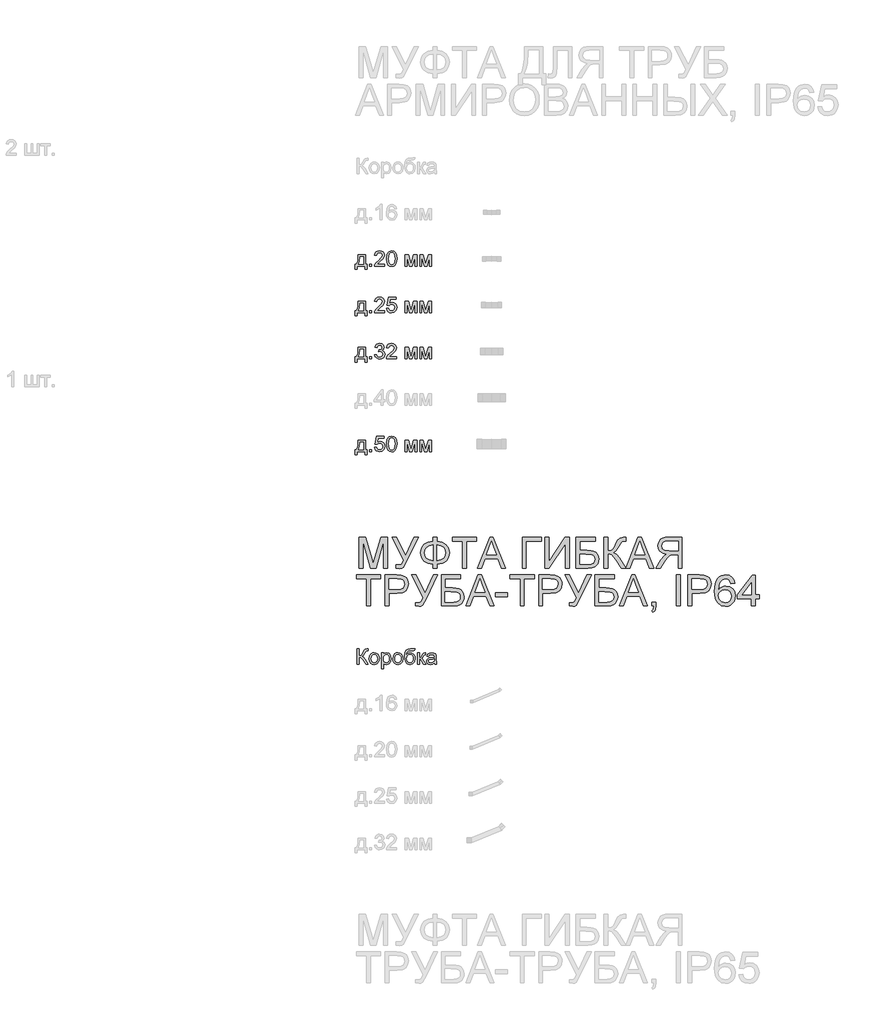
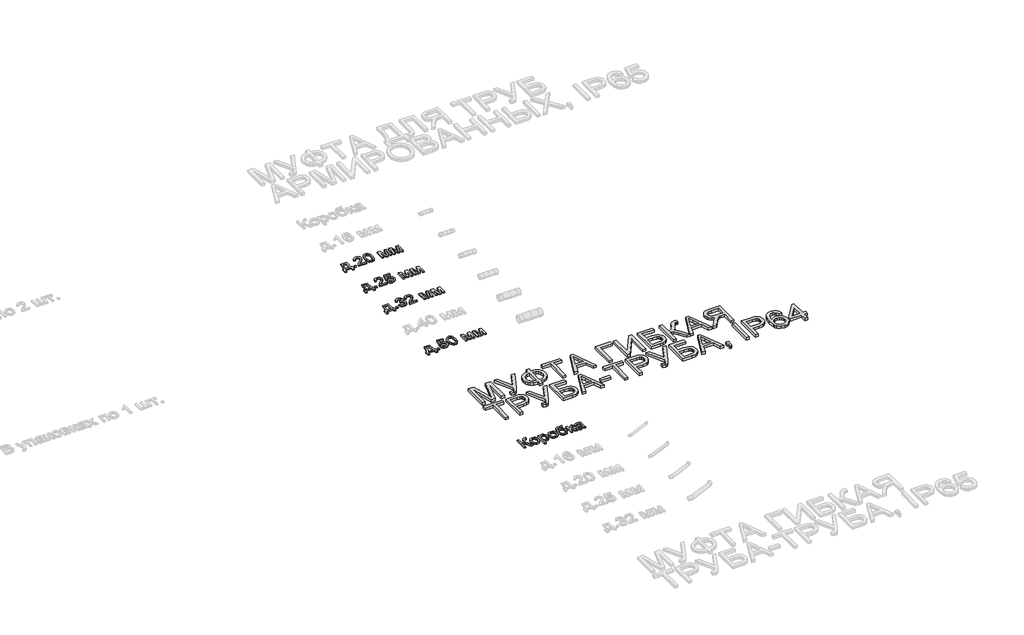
# One storey, part 78 of 98: 6 proxies.
"""IFC4 building model written with IfcOpenShell, lengths in millimetres."""

from ifc_helpers import new_model, si_unit, origin, origin_with_axes, place, context, project, spatial, polyline, outline, extrude, element, save

model = new_model("IFC4")

# Units and contexts
model_context = context("Model", 3, world=origin())
ifc_project = project(units=[si_unit("LENGTHUNIT", "METRE", prefix="MILLI")], contexts=[model_context])

# Site, building, storey
site = spatial("IfcSite", under=ifc_project)
building = spatial("IfcBuilding", under=site)
storey = spatial("IfcBuildingStorey", under=building, Name="Этаж 01", Elevation=0.0)

# Proxies
placement = place(None, origin())
element("IfcBuildingElementProxy", 1, Name="100", ObjectType="100", at=placement, inside=storey, context=model_context, shape_type="SweptSolid", body=[
    extrude(outline(polyline([(14428.905254, -15985.7395637), (14475.9941494, -15985.7395637), (14475.9941494, -16046.9551277), (14485.4119285, -16046.9551277), (14485.4119285, -16079.9173545), (14472.8548897, -16079.9173545), (14472.8548897, -16059.5121665), (14421.0571048, -16059.5121665), (14421.0571048, -16079.9173545), (14408.500066, -16079.9173545), (14408.500066, -16046.9551277), (14416.3482152, -16046.9551277), (14426.0480372, -16023.0060098), (14428.905254, -15985.7395637)]), holes=[polyline([(14439.8926629, -15998.2966025), (14436.949607, -16026.905559), (14430.4748839, -16046.9551277), (14463.4371106, -16046.9551277), (14463.4371106, -15998.2966025), (14439.8926629, -15998.2966025)])]), origin_with_axes(), (0.0, 0.0, 1.0), 10.0),
    extrude(outline(polyline([(14502.6778568, -16059.5121665), (14502.6778568, -16046.9551277), (14515.2348955, -16046.9551277), (14515.2348955, -16059.5121665), (14502.6778568, -16059.5121665)])), origin_with_axes(), (0.0, 0.0, 1.0), 10.0),
    extrude(outline(polyline([(14599.9949072, -16046.9551277), (14599.9949072, -16059.5121665), (14534.0704537, -16059.5121665), (14535.4193544, -16050.8546768), (14543.0467744, -16037.5250859), (14558.7675983, -16022.9692216), (14580.4481106, -16002.0489988), (14585.8682386, -15987.8242283), (14580.7546789, -15976.3095219), (14567.4005625, -15971.6128951), (14553.4823603, -15976.1991573), (14548.1971223, -15988.8788234), (14535.6400835, -15987.3091935), (14538.6843071, -15975.1629563), (14545.2663291, -15966.2908689), (14555.0427931, -15960.8646095), (14567.6703426, -15959.0558563), (14580.3898626, -15961.0669445), (14590.1479325, -15967.1002093), (14596.3559412, -15976.1133182), (14598.4252774, -15987.0639389), (14596.19346, -15998.9710528), (14588.7745064, -16011.2828369), (14570.7850768, -16028.4874515), (14556.3395771, -16040.5662437), (14550.6741944, -16046.9551277), (14599.9949072, -16046.9551277)])), origin_with_axes(), (0.0, 0.0, 1.0), 10.0),
    extrude(outline(polyline([(14612.551946, -16010.0933518), (14616.2430287, -15981.1900897), (14627.2059121, -15964.5250353), (14645.5141728, -15959.0558563), (14660.1804016, -15962.2932179), (14670.3094192, -15971.6251578), (14676.1955312, -15986.4875904), (14678.4763995, -16010.0933518), (14674.8221051, -16038.8739865), (14663.8960098, -16055.5758291), (14655.6646502, -16059.7053045), (14645.5141728, -16061.0817963), (14632.4666247, -16058.6905633), (14622.5583363, -16051.5168644), (14615.0535436, -16034.5268476), (14612.551946, -16010.0933518)]), holes=[polyline([(14625.1089848, -16010.0688263), (14626.5805128, -16029.8210238), (14630.9950967, -16041.2529568), (14637.5679217, -16046.7068073), (14645.5141728, -16048.5247575), (14653.4604239, -16046.700676), (14660.0332488, -16041.2284313), (14664.4478328, -16029.7903669), (14665.9193608, -16010.0688263), (14664.4968837, -15990.7611529), (14660.2294526, -15979.2403151), (14653.6688903, -15973.5197501), (14645.36702, -15971.6128951), (14637.506608, -15973.2928895), (14631.1913004, -15978.3328729), (14626.6295637, -15990.5710806), (14625.1089848, -16010.0688263)])]), origin_with_axes(), (0.0, 0.0, 1.0), 10.0),
    extrude(outline(polyline([(14731.8438143, -15985.7395637), (14753.4507502, -15985.7395637), (14770.1035418, -16044.7968867), (14788.0561832, -15985.7395637), (14808.7556768, -15985.7395637), (14808.7556768, -16059.5121665), (14796.198638, -16059.5121665), (14796.198638, -16000.111487), (14778.1478948, -16059.5121665), (14761.6667814, -16059.5121665), (14744.4008531, -15997.2665329), (14744.4008531, -16059.5121665), (14731.8438143, -16059.5121665), (14731.8438143, -15985.7395637)])), origin_with_axes(), (0.0, 0.0, 1.0), 10.0),
    extrude(outline(polyline([(14827.5912349, -15985.7395637), (14849.1981708, -15985.7395637), (14865.8509624, -16044.7968867), (14883.8036038, -15985.7395637), (14904.5030974, -15985.7395637), (14904.5030974, -16059.5121665), (14891.9460586, -16059.5121665), (14891.9460586, -16000.111487), (14873.8953154, -16059.5121665), (14857.414202, -16059.5121665), (14840.1482737, -15997.2665329), (14840.1482737, -16059.5121665), (14827.5912349, -16059.5121665), (14827.5912349, -15985.7395637)])), origin_with_axes(), (0.0, 0.0, 1.0), 10.0),
])
element("IfcBuildingElementProxy", 2, Name="100", ObjectType="100", at=placement, inside=storey, context=model_context, shape_type="SweptSolid", body=[
    extrude(outline(polyline([(14428.905254, -16285.7395637), (14475.9941494, -16285.7395637), (14475.9941494, -16346.9551277), (14485.4119285, -16346.9551277), (14485.4119285, -16379.9173545), (14472.8548897, -16379.9173545), (14472.8548897, -16359.5121665), (14421.0571048, -16359.5121665), (14421.0571048, -16379.9173545), (14408.500066, -16379.9173545), (14408.500066, -16346.9551277), (14416.3482152, -16346.9551277), (14426.0480372, -16323.0060098), (14428.905254, -16285.7395637)]), holes=[polyline([(14439.8926629, -16298.2966025), (14436.949607, -16326.905559), (14430.4748839, -16346.9551277), (14463.4371106, -16346.9551277), (14463.4371106, -16298.2966025), (14439.8926629, -16298.2966025)])]), origin_with_axes(), (0.0, 0.0, 1.0), 10.0),
    extrude(outline(polyline([(14502.6778568, -16359.5121665), (14502.6778568, -16346.9551277), (14515.2348955, -16346.9551277), (14515.2348955, -16359.5121665), (14502.6778568, -16359.5121665)])), origin_with_axes(), (0.0, 0.0, 1.0), 10.0),
    extrude(outline(polyline([(14599.9949072, -16346.9551277), (14599.9949072, -16359.5121665), (14534.0704537, -16359.5121665), (14535.4193544, -16350.8546768), (14543.0467744, -16337.5250859), (14558.7675983, -16322.9692216), (14580.4481106, -16302.0489988), (14585.8682386, -16287.8242283), (14580.7546789, -16276.3095219), (14567.4005625, -16271.6128951), (14553.4823603, -16276.1991573), (14548.1971223, -16288.8788234), (14535.6400835, -16287.3091935), (14538.6843071, -16275.1629563), (14545.2663291, -16266.2908689), (14555.0427931, -16260.8646095), (14567.6703426, -16259.0558563), (14580.3898626, -16261.0669445), (14590.1479325, -16267.1002093), (14596.3559412, -16276.1133182), (14598.4252774, -16287.0639389), (14596.19346, -16298.9710528), (14588.7745064, -16311.2828369), (14570.7850768, -16328.4874515), (14556.3395771, -16340.5662437), (14550.6741944, -16346.9551277), (14599.9949072, -16346.9551277)])), origin_with_axes(), (0.0, 0.0, 1.0), 10.0),
    extrude(outline(polyline([(14612.551946, -16332.8284591), (14625.1089848, -16331.2588292), (14631.4365551, -16344.1960127), (14644.5576796, -16348.5247575), (14653.5585257, -16347.019507), (14660.303029, -16342.5037555), (14664.5152778, -16335.4986692), (14665.9193608, -16326.5254142), (14660.6586482, -16311.6139307), (14654.0521007, -16307.5120464), (14644.7538833, -16306.1447517), (14633.7296862, -16308.3275182), (14626.6786146, -16313.9929009), (14614.1215759, -16312.4232711), (14625.1089848, -16260.6254862), (14673.76751, -16260.6254862), (14673.76751, -16273.1825249), (14635.2625278, -16273.1825249), (14629.8914507, -16300.847251), (14638.86164, -16295.4025974), (14648.261025, -16293.5877129), (14659.993395, -16295.8379245), (14669.7330708, -16302.5885591), (14676.2905674, -16312.8769922), (14678.4763995, -16325.7405993), (14676.5082309, -16338.2976381), (14670.6037248, -16349.0397923), (14659.2974849, -16358.0712953), (14644.5086287, -16361.0817963), (14632.1753848, -16359.1473501), (14622.3498698, -16353.3440117), (14615.6145636, -16344.3462312), (14612.551946, -16332.8284591)])), origin_with_axes(), (0.0, 0.0, 1.0), 10.0),
    extrude(outline(polyline([(14731.8438143, -16285.7395637), (14753.4507502, -16285.7395637), (14770.1035418, -16344.7968867), (14788.0561832, -16285.7395637), (14808.7556768, -16285.7395637), (14808.7556768, -16359.5121665), (14796.198638, -16359.5121665), (14796.198638, -16300.111487), (14778.1478948, -16359.5121665), (14761.6667814, -16359.5121665), (14744.4008531, -16297.2665329), (14744.4008531, -16359.5121665), (14731.8438143, -16359.5121665), (14731.8438143, -16285.7395637)])), origin_with_axes(), (0.0, 0.0, 1.0), 10.0),
    extrude(outline(polyline([(14827.5912349, -16285.7395637), (14849.1981708, -16285.7395637), (14865.8509624, -16344.7968867), (14883.8036038, -16285.7395637), (14904.5030974, -16285.7395637), (14904.5030974, -16359.5121665), (14891.9460586, -16359.5121665), (14891.9460586, -16300.111487), (14873.8953154, -16359.5121665), (14857.414202, -16359.5121665), (14840.1482737, -16297.2665329), (14840.1482737, -16359.5121665), (14827.5912349, -16359.5121665), (14827.5912349, -16285.7395637)])), origin_with_axes(), (0.0, 0.0, 1.0), 10.0),
])
element("IfcBuildingElementProxy", 3, Name="100", ObjectType="100", at=placement, inside=storey, context=model_context, shape_type="SweptSolid", body=[
    extrude(outline(polyline([(14428.905254, -16585.7395637), (14475.9941494, -16585.7395637), (14475.9941494, -16646.9551277), (14485.4119285, -16646.9551277), (14485.4119285, -16679.9173545), (14472.8548897, -16679.9173545), (14472.8548897, -16659.5121665), (14421.0571048, -16659.5121665), (14421.0571048, -16679.9173545), (14408.500066, -16679.9173545), (14408.500066, -16646.9551277), (14416.3482152, -16646.9551277), (14426.0480372, -16623.0060098), (14428.905254, -16585.7395637)]), holes=[polyline([(14439.8926629, -16598.2966025), (14436.949607, -16626.905559), (14430.4748839, -16646.9551277), (14463.4371106, -16646.9551277), (14463.4371106, -16598.2966025), (14439.8926629, -16598.2966025)])]), origin_with_axes(), (0.0, 0.0, 1.0), 10.0),
    extrude(outline(polyline([(14502.6778568, -16659.5121665), (14502.6778568, -16646.9551277), (14515.2348955, -16646.9551277), (14515.2348955, -16659.5121665), (14502.6778568, -16659.5121665)])), origin_with_axes(), (0.0, 0.0, 1.0), 10.0),
    extrude(outline(polyline([(14535.6400835, -16632.8284591), (14548.1971223, -16631.2588292), (14555.1255666, -16644.4780556), (14568.0872755, -16648.5247575), (14576.6957142, -16647.1329373), (14583.3421156, -16642.9574767), (14589.0074983, -16629.1741646), (14583.3911665, -16616.1879302), (14569.1173451, -16611.049845), (14560.3127027, -16612.4232711), (14561.7106543, -16599.8662323), (14563.7217425, -16600.0133851), (14577.9710385, -16596.4081416), (14582.7167162, -16591.8341421), (14584.2986088, -16585.3226308), (14579.7123466, -16575.5001815), (14567.8910718, -16571.6128951), (14555.9226442, -16575.5369697), (14549.7667522, -16587.3091935), (14537.2097134, -16585.7395637), (14540.9069274, -16574.4639805), (14547.4858838, -16566.0456142), (14556.4867299, -16560.8032958), (14567.4496134, -16559.0558563), (14582.5940889, -16562.5016843), (14593.1890903, -16571.9194634), (14596.8556475, -16584.5868668), (14593.3730313, -16596.1628869), (14583.0723355, -16604.47702), (14596.7575457, -16613.0609332), (14601.5645371, -16629.3948938), (14599.1610414, -16641.6331015), (14591.9505543, -16651.860221), (14581.0673786, -16658.7764025), (14567.6458171, -16661.0817963), (14555.5057113, -16659.1136276), (14545.6219483, -16653.2091216), (14538.7486864, -16644.1776186), (14535.6400835, -16632.8284591)])), origin_with_axes(), (0.0, 0.0, 1.0), 10.0),
    extrude(outline(polyline([(14676.9067697, -16646.9551277), (14676.9067697, -16659.5121665), (14610.9823162, -16659.5121665), (14612.3312168, -16650.8546768), (14619.9586368, -16637.5250859), (14635.6794608, -16622.9692216), (14657.359973, -16602.0489988), (14662.7801011, -16587.8242283), (14657.6665413, -16576.3095219), (14644.3124249, -16571.6128951), (14630.3942228, -16576.1991573), (14625.1089848, -16588.8788234), (14612.551946, -16587.3091935), (14615.5961695, -16575.1629563), (14622.1781915, -16566.2908689), (14631.9546556, -16560.8646095), (14644.5822051, -16559.0558563), (14657.301725, -16561.0669445), (14667.059795, -16567.1002093), (14673.2678036, -16576.1133182), (14675.3371398, -16587.0639389), (14673.1053224, -16598.9710528), (14665.6863688, -16611.2828369), (14647.6969393, -16628.4874515), (14633.2514396, -16640.5662437), (14627.5860569, -16646.9551277), (14676.9067697, -16646.9551277)])), origin_with_axes(), (0.0, 0.0, 1.0), 10.0),
    extrude(outline(polyline([(14731.8438143, -16585.7395637), (14753.4507502, -16585.7395637), (14770.1035418, -16644.7968867), (14788.0561832, -16585.7395637), (14808.7556768, -16585.7395637), (14808.7556768, -16659.5121665), (14796.198638, -16659.5121665), (14796.198638, -16600.111487), (14778.1478948, -16659.5121665), (14761.6667814, -16659.5121665), (14744.4008531, -16597.2665329), (14744.4008531, -16659.5121665), (14731.8438143, -16659.5121665), (14731.8438143, -16585.7395637)])), origin_with_axes(), (0.0, 0.0, 1.0), 10.0),
    extrude(outline(polyline([(14827.5912349, -16585.7395637), (14849.1981708, -16585.7395637), (14865.8509624, -16644.7968867), (14883.8036038, -16585.7395637), (14904.5030974, -16585.7395637), (14904.5030974, -16659.5121665), (14891.9460586, -16659.5121665), (14891.9460586, -16600.111487), (14873.8953154, -16659.5121665), (14857.414202, -16659.5121665), (14840.1482737, -16597.2665329), (14840.1482737, -16659.5121665), (14827.5912349, -16659.5121665), (14827.5912349, -16585.7395637)])), origin_with_axes(), (0.0, 0.0, 1.0), 10.0),
])
element("IfcBuildingElementProxy", 4, Name="100", ObjectType="100", at=placement, inside=storey, context=model_context, shape_type="SweptSolid", body=[
    extrude(outline(polyline([(14428.905254, -17185.7395637), (14475.9941494, -17185.7395637), (14475.9941494, -17246.9551277), (14485.4119285, -17246.9551277), (14485.4119285, -17279.9173545), (14472.8548897, -17279.9173545), (14472.8548897, -17259.5121665), (14421.0571048, -17259.5121665), (14421.0571048, -17279.9173545), (14408.500066, -17279.9173545), (14408.500066, -17246.9551277), (14416.3482152, -17246.9551277), (14426.0480372, -17223.0060098), (14428.905254, -17185.7395637)]), holes=[polyline([(14439.8926629, -17198.2966025), (14436.949607, -17226.905559), (14430.4748839, -17246.9551277), (14463.4371106, -17246.9551277), (14463.4371106, -17198.2966025), (14439.8926629, -17198.2966025)])]), origin_with_axes(), (0.0, 0.0, 1.0), 10.0),
    extrude(outline(polyline([(14502.6778568, -17259.5121665), (14502.6778568, -17246.9551277), (14515.2348955, -17246.9551277), (14515.2348955, -17259.5121665), (14502.6778568, -17259.5121665)])), origin_with_axes(), (0.0, 0.0, 1.0), 10.0),
    extrude(outline(polyline([(14535.6400835, -17232.8284591), (14548.1971223, -17231.2588292), (14554.5246926, -17244.1960127), (14567.6458171, -17248.5247575), (14576.6466633, -17247.019507), (14583.3911665, -17242.5037555), (14587.6034154, -17235.4986692), (14589.0074983, -17226.5254142), (14583.7467858, -17211.6139307), (14577.1402383, -17207.5120464), (14567.8420209, -17206.1447517), (14556.8178237, -17208.3275182), (14549.7667522, -17213.9929009), (14537.2097134, -17212.4232711), (14548.1971223, -17160.6254862), (14596.8556475, -17160.6254862), (14596.8556475, -17173.1825249), (14558.3506654, -17173.1825249), (14552.9795883, -17200.847251), (14561.9497776, -17195.4025974), (14571.3491625, -17193.5877129), (14583.0815325, -17195.8379245), (14592.8212083, -17202.5885591), (14599.3787049, -17212.8769922), (14601.5645371, -17225.7405993), (14599.5963684, -17238.2976381), (14593.6918624, -17249.0397923), (14582.3856224, -17258.0712953), (14567.5967662, -17261.0817963), (14555.2635223, -17259.1473501), (14545.4380074, -17253.3440117), (14538.7027012, -17244.3462312), (14535.6400835, -17232.8284591)])), origin_with_axes(), (0.0, 0.0, 1.0), 10.0),
    extrude(outline(polyline([(14612.551946, -17210.0933518), (14616.2430287, -17181.1900897), (14627.2059121, -17164.5250353), (14645.5141728, -17159.0558563), (14660.1804016, -17162.2932179), (14670.3094192, -17171.6251578), (14676.1955312, -17186.4875904), (14678.4763995, -17210.0933518), (14674.8221051, -17238.8739865), (14663.8960098, -17255.5758291), (14655.6646502, -17259.7053045), (14645.5141728, -17261.0817963), (14632.4666247, -17258.6905633), (14622.5583363, -17251.5168644), (14615.0535436, -17234.5268476), (14612.551946, -17210.0933518)]), holes=[polyline([(14625.1089848, -17210.0688263), (14626.5805128, -17229.8210238), (14630.9950967, -17241.2529568), (14637.5679217, -17246.7068073), (14645.5141728, -17248.5247575), (14653.4604239, -17246.700676), (14660.0332488, -17241.2284313), (14664.4478328, -17229.7903669), (14665.9193608, -17210.0688263), (14664.4968837, -17190.7611529), (14660.2294526, -17179.2403151), (14653.6688903, -17173.5197501), (14645.36702, -17171.6128951), (14637.506608, -17173.2928895), (14631.1913004, -17178.3328729), (14626.6295637, -17190.5710806), (14625.1089848, -17210.0688263)])]), origin_with_axes(), (0.0, 0.0, 1.0), 10.0),
    extrude(outline(polyline([(14731.8438143, -17185.7395637), (14753.4507502, -17185.7395637), (14770.1035418, -17244.7968867), (14788.0561832, -17185.7395637), (14808.7556768, -17185.7395637), (14808.7556768, -17259.5121665), (14796.198638, -17259.5121665), (14796.198638, -17200.111487), (14778.1478948, -17259.5121665), (14761.6667814, -17259.5121665), (14744.4008531, -17197.2665329), (14744.4008531, -17259.5121665), (14731.8438143, -17259.5121665), (14731.8438143, -17185.7395637)])), origin_with_axes(), (0.0, 0.0, 1.0), 10.0),
    extrude(outline(polyline([(14827.5912349, -17185.7395637), (14849.1981708, -17185.7395637), (14865.8509624, -17244.7968867), (14883.8036038, -17185.7395637), (14904.5030974, -17185.7395637), (14904.5030974, -17259.5121665), (14891.9460586, -17259.5121665), (14891.9460586, -17200.111487), (14873.8953154, -17259.5121665), (14857.414202, -17259.5121665), (14840.1482737, -17197.2665329), (14840.1482737, -17259.5121665), (14827.5912349, -17259.5121665), (14827.5912349, -17185.7395637)])), origin_with_axes(), (0.0, 0.0, 1.0), 10.0),
])
element("IfcBuildingElementProxy", 5, Name="100", ObjectType="100", at=placement, inside=storey, context=model_context, shape_type="SweptSolid", body=[
    extrude(outline(polyline([(14422.316053, -18537.0810385), (14434.8730918, -18537.0810385), (14434.8730918, -18581.0306742), (14448.9139213, -18577.7074735), (14458.7118451, -18560.8952663), (14465.6402893, -18546.8544368), (14473.4884386, -18539.9014671), (14484.7088394, -18537.0810385), (14492.9493961, -18537.2281913), (14492.9493961, -18549.78523), (14490.1780184, -18549.7116536), (14487.4066407, -18549.6380772), (14477.5964542, -18552.6547096), (14470.1407124, -18565.5796304), (14461.2502309, -18581.3249798), (14452.5804785, -18586.5243786), (14462.2741691, -18592.2020241), (14471.8329696, -18604.0355616), (14492.9493961, -18637.5373486), (14478.3812691, -18637.5373486), (14460.5267296, -18609.2349605), (14447.9574281, -18594.458367), (14434.8730918, -18590.4484532), (14434.8730918, -18637.5373486), (14422.316053, -18637.5373486), (14422.316053, -18537.0810385)])), origin_with_axes(), (0.0, 0.0, 1.0), 10.0),
    extrude(outline(polyline([(14499.2279155, -18600.6510472), (14501.9441109, -18582.8639528), (14510.0926971, -18570.3620963), (14520.160401, -18564.2368611), (14532.2146677, -18562.195116), (14545.4063029, -18564.6813852), (14555.9430564, -18572.1401926), (14562.8500409, -18583.9829272), (14565.152369, -18599.6209776), (14561.0811416, -18621.9636775), (14549.2230786, -18634.6065554), (14532.2146677, -18639.1069785), (14518.863617, -18636.6299064), (14508.3391263, -18629.1986901), (14501.5057182, -18617.1076351), (14499.2279155, -18600.6510472)]), holes=[polyline([(14511.7849543, -18600.6265218), (14513.2380882, -18611.9910097), (14517.5974898, -18620.0874793), (14524.158052, -18624.9343246), (14532.2146677, -18626.5499397), (14540.2344952, -18624.9251275), (14546.7827947, -18620.0506911), (14551.1421964, -18611.8469226), (14552.5953303, -18600.2341143), (14551.1329993, -18589.2007201), (14546.7460065, -18581.2146152), (14540.18851, -18576.3677699), (14532.2146677, -18574.7521548), (14524.158052, -18576.3616385), (14517.5974898, -18581.1900897), (14513.2380882, -18589.2681652), (14511.7849543, -18600.6265218)])]), origin_with_axes(), (0.0, 0.0, 1.0), 10.0),
    extrude(outline(polyline([(14579.2790377, -18665.7906858), (14579.2790377, -18563.7647458), (14591.8360764, -18563.7647458), (14591.8360764, -18576.07653), (14600.5180915, -18565.6654695), (14612.2412644, -18562.195116), (14628.1582921, -18567.0511583), (14638.5570898, -18580.7363686), (14642.0642315, -18600.0869615), (14638.1033687, -18620.4308358), (14626.600925, -18634.2877243), (14610.7206855, -18639.1069785), (14599.7945903, -18635.8818796), (14591.8360764, -18627.7271621), (14591.8360764, -18665.7906858), (14579.2790377, -18665.7906858)]), holes=[polyline([(14591.8360764, -18601.2396584), (14593.1941741, -18612.4968475), (14597.2684672, -18620.3695222), (14603.2802722, -18625.0048353), (14610.4509054, -18626.5499397), (14617.7380346, -18624.949653), (14623.9031237, -18620.148793), (14628.1061755, -18611.987944), (14629.5071927, -18600.3076907), (14628.139898, -18589.1118153), (14624.0380137, -18581.128776), (14618.0354058, -18576.3463101), (14610.9659402, -18574.7521548), (14603.8688833, -18576.4474776), (14597.6363492, -18581.5334462), (14593.2861446, -18589.850645), (14591.8360764, -18601.2396584)])]), origin_with_axes(), (0.0, 0.0, 1.0), 10.0),
    extrude(outline(polyline([(14653.0516404, -18600.6510472), (14655.7678358, -18582.8639528), (14663.916422, -18570.3620963), (14673.9841259, -18564.2368611), (14686.0383927, -18562.195116), (14699.2300279, -18564.6813852), (14709.7667813, -18572.1401926), (14716.6737658, -18583.9829272), (14718.976094, -18599.6209776), (14714.9048665, -18621.9636775), (14703.0468036, -18634.6065554), (14686.0383927, -18639.1069785), (14672.6873419, -18636.6299064), (14662.1628512, -18629.1986901), (14655.3294431, -18617.1076351), (14653.0516404, -18600.6510472)]), holes=[polyline([(14665.6086792, -18600.6265218), (14667.0618131, -18611.9910097), (14671.4212147, -18620.0874793), (14677.981777, -18624.9343246), (14686.0383927, -18626.5499397), (14694.0582202, -18624.9251275), (14700.6065197, -18620.0506911), (14704.9659213, -18611.8469226), (14706.4190552, -18600.2341143), (14704.9567243, -18589.2007201), (14700.5697315, -18581.2146152), (14694.0122349, -18576.3677699), (14686.0383927, -18574.7521548), (14677.981777, -18576.3616385), (14671.4212147, -18581.1900897), (14667.0618131, -18589.2681652), (14665.6086792, -18600.6265218)])]), origin_with_axes(), (0.0, 0.0, 1.0), 10.0),
    extrude(outline(polyline([(14784.9005475, -18535.5114086), (14795.8879564, -18535.5114086), (14792.6505949, -18545.3093324), (14786.2494481, -18548.8532623), (14770.8719807, -18549.6380772), (14750.1602244, -18552.5320823), (14742.2139733, -18561.8027085), (14739.5284348, -18578.2102455), (14750.4054791, -18566.192767), (14764.4217831, -18562.195116), (14777.4877253, -18564.7365675), (14788.0888581, -18572.3609218), (14795.1154042, -18584.3201523), (14797.4575863, -18599.8662323), (14792.8100104, -18621.4731682), (14781.7858133, -18634.5084535), (14764.4217831, -18639.1069785), (14753.087952, -18637.6262534), (14744.5929436, -18633.1840783), (14733.7404247, -18618.0273401), (14729.9635029, -18585.862191), (14732.3455388, -18561.768986), (14739.4916466, -18547.075166), (14751.5796358, -18539.5795703), (14768.7873161, -18537.0810385), (14782.7668319, -18536.7989956), (14784.9005475, -18535.5114086)]), holes=[polyline([(14784.9005475, -18599.4738248), (14783.5393841, -18589.5931276), (14779.455894, -18581.680599), (14772.8953317, -18576.4842658), (14764.102952, -18574.7521548), (14754.936559, -18576.5823677), (14748.1368734, -18582.0730065), (14743.9246246, -18590.6231972), (14742.5205416, -18601.6320659), (14744.0717774, -18612.3037094), (14748.7254846, -18620.1365302), (14755.6539289, -18624.9465873), (14764.0293756, -18626.5499397), (14772.447742, -18624.6952013), (14779.1125374, -18619.1309861), (14783.453545, -18610.507219), (14784.9005475, -18599.4738248)])]), origin_with_axes(), (0.0, 0.0, 1.0), 10.0),
    extrude(outline(polyline([(14813.1538847, -18563.7647458), (14825.7109235, -18563.7647458), (14825.7109235, -18595.1573428), (14834.1231584, -18592.9009999), (14841.0148145, -18579.7553499), (14846.7415109, -18568.4123217), (14851.7937569, -18564.721239), (14860.9785441, -18563.7647458), (14863.3820398, -18563.7647458), (14863.3820398, -18576.395361), (14859.9975254, -18576.3217846), (14853.8661589, -18577.6461598), (14849.5496768, -18585.911242), (14844.485168, -18594.8507744), (14837.3850455, -18599.2285702), (14845.3067711, -18604.1152694), (14853.0813439, -18614.4098338), (14866.5212995, -18637.5373486), (14852.2474781, -18637.5373486), (14839.0773026, -18614.9003432), (14832.4554267, -18605.3231486), (14825.7109235, -18603.005492), (14825.7109235, -18637.5373486), (14813.1538847, -18637.5373486), (14813.1538847, -18563.7647458)])), origin_with_axes(), (0.0, 0.0, 1.0), 10.0),
    extrude(outline(polyline([(14921.4583441, -18628.1195695), (14909.2814501, -18636.6299064), (14895.8292318, -18639.1069785), (14885.3353979, -18637.6170564), (14877.5945475, -18633.1472901), (14872.8212787, -18626.3598673), (14871.230189, -18617.9169755), (14873.6336847, -18607.9841617), (14879.9489923, -18600.7736746), (14888.741372, -18596.6533962), (14899.6061536, -18594.7649353), (14921.3847677, -18590.4484532), (14921.4583441, -18587.6525501), (14918.0002533, -18578.3819238), (14904.1188394, -18574.7521548), (14891.4146478, -18577.1679132), (14885.3568576, -18585.7395637), (14872.7998189, -18584.1699338), (14878.2322097, -18571.9072007), (14889.1705677, -18564.721239), (14905.7375202, -18562.195116), (14920.955572, -18564.4269334), (14929.551748, -18570.0310025), (14933.4022462, -18578.5536021), (14934.0153829, -18589.541011), (14934.0153829, -18605.163733), (14934.653045, -18626.9791354), (14937.1546426, -18637.5373486), (14924.5976038, -18637.5373486), (14921.4583441, -18628.1195695)]), holes=[polyline([(14921.4583441, -18603.005492), (14901.2003089, -18606.8559902), (14890.396841, -18608.8916039), (14885.5040104, -18612.2025419), (14883.7872278, -18617.0340587), (14887.5273614, -18623.8276129), (14898.5025076, -18626.5499397), (14911.2066992, -18623.5455701), (14919.3982049, -18616.2737693), (14921.3847677, -18606.5616846), (14921.4583441, -18603.005492)])]), origin_with_axes(), (0.0, 0.0, 1.0), 10.0),
])
element("IfcBuildingElementProxy", 6, Name="200", ObjectType="200", at=placement, inside=storey, context=model_context, shape_type="SweptSolid", body=[
    extrude(outline(polyline([(14433.303462, -18015.5625308), (14433.303462, -17814.6499105), (14476.5173337, -17814.6499105), (14517.6220153, -17956.2599531), (14525.9116229, -17985.8376656), (14534.8879436, -17953.8074065), (14575.3059121, -17814.6499105), (14618.5197838, -17814.6499105), (14618.5197838, -18015.5625308), (14593.4057063, -18015.5625308), (14593.4057063, -17839.763988), (14542.9322965, -18015.5625308), (14508.8909492, -18015.5625308), (14458.4175395, -17839.763988), (14458.4175395, -18015.5625308), (14433.303462, -18015.5625308)])), origin_with_axes(), (0.0, 0.0, 1.0), 20.0),
    extrude(outline(polyline([(14648.3427509, -17814.6499105), (14676.1546297, -17814.6499105), (14736.2420223, -17933.6474732), (14790.2961501, -17814.6499105), (14817.8627743, -17814.6499105), (14741.5885739, -17971.1714367), (14720.8400294, -18009.6273679), (14710.9930547, -18016.4331848), (14697.6389382, -18018.7017905), (14675.0264583, -18015.5625308), (14675.0264583, -17993.5877129), (14694.7939841, -17993.5877129), (14709.460213, -17987.9959066), (14723.0473214, -17962.5384725), (14648.3427509, -17814.6499105)])), origin_with_axes(), (0.0, 0.0, 1.0), 20.0),
    extrude(outline(polyline([(14913.6101949, -17839.763988), (14913.6101949, -17814.6499105), (14938.7242724, -17814.6499105), (14938.7242724, -17839.763988), (14972.5632846, -17846.5575422), (14998.443783, -17862.8179264), (15014.869714, -17886.3746368), (15020.3450244, -17915.0571697), (15015.0413923, -17943.2737187), (14999.130496, -17966.9040055), (14987.3996589, -17976.3769669), (14973.4216759, -17983.4586953), (14938.7242724, -17990.4484532), (14938.7242724, -18015.5625308), (14913.6101949, -18015.5625308), (14913.6101949, -17990.4484532), (14881.5186222, -17984.3354807), (14855.2886359, -17968.7434155), (14845.095239, -17957.7636708), (14837.8142411, -17945.1560483), (14831.9894429, -17915.0571697), (14837.795847, -17884.8663206), (14845.0538522, -17872.2908877), (14855.2150595, -17861.3954493), (14881.4266517, -17845.9321428), (14913.6101949, -17839.763988)]), holes=[polyline([(14913.6101949, -17864.8780655), (14890.7585916, -17868.900242), (14872.7262425, -17878.9066323), (14861.0092009, -17894.455778), (14857.1035204, -17915.1062206), (14860.96015, -17935.6033791), (14872.5300387, -17951.1831816), (14890.5133369, -17961.2815424), (14913.6101949, -17965.3343757), (14913.6101949, -17864.8780655)]), polyline([(14938.7242724, -17864.8780655), (14938.7242724, -17965.3343757), (14962.2196692, -17961.1834405), (14980.1232596, -17951.0850797), (14991.4540251, -17935.5543282), (14995.2309469, -17915.1062206), (14991.5214701, -17894.9340245), (14980.3930397, -17879.4461926), (14962.5568943, -17869.2313358), (14938.7242724, -17864.8780655)])]), origin_with_axes(), (0.0, 0.0, 1.0), 20.0),
    extrude(outline(polyline([(15105.1050361, -18015.5625308), (15105.1050361, -17839.763988), (15039.1805826, -17839.763988), (15039.1805826, -17814.6499105), (15196.1435672, -17814.6499105), (15196.1435672, -17839.763988), (15130.2191136, -17839.763988), (15130.2191136, -18015.5625308), (15105.1050361, -18015.5625308)])), origin_with_axes(), (0.0, 0.0, 1.0), 20.0),
    extrude(outline(polyline([(15200.9996095, -18015.5625308), (15281.1978845, -17814.6499105), (15302.5840911, -17814.6499105), (15382.7823661, -18015.5625308), (15356.2458115, -18015.5625308), (15333.240924, -17952.7773369), (15250.4920006, -17952.7773369), (15227.5361641, -18015.5625308), (15200.9996095, -18015.5625308)]), holes=[polyline([(15259.7135759, -17927.6632594), (15324.0683996, -17927.6632594), (15305.9686055, -17878.2689702), (15291.8909878, -17839.763988), (15279.3829999, -17873.9524881), (15259.7135759, -17927.6632594)])]), origin_with_axes(), (0.0, 0.0, 1.0), 20.0),
    extrude(outline(polyline([(15491.2339782, -17814.6499105), (15616.8043659, -17814.6499105), (15616.8043659, -17839.763988), (15516.3480558, -17839.763988), (15516.3480558, -18015.5625308), (15491.2339782, -18015.5625308), (15491.2339782, -17814.6499105)])), origin_with_axes(), (0.0, 0.0, 1.0), 20.0),
    extrude(outline(polyline([(15638.7791838, -17814.6499105), (15663.8932613, -17814.6499105), (15663.8932613, -17973.7711361), (15769.058461, -17814.6499105), (15795.7421684, -17814.6499105), (15795.7421684, -18015.5625308), (15770.6280908, -18015.5625308), (15770.6280908, -17856.8827635), (15665.7081458, -18015.5625308), (15638.7791838, -18015.5625308), (15638.7791838, -17814.6499105)])), origin_with_axes(), (0.0, 0.0, 1.0), 20.0),
    extrude(outline(polyline([(15839.6918041, -17814.6499105), (15965.2621918, -17814.6499105), (15965.2621918, -17839.763988), (15864.8058816, -17839.763988), (15864.8058816, -17899.4099222), (15911.8457261, -17899.4099222), (15935.2307582, -17900.6852464), (15953.2937642, -17904.5112192), (15967.1629154, -17911.8811218), (15977.9663833, -17923.7882357), (15984.919353, -17939.1166522), (15987.2370096, -17956.7504625), (15985.587672, -17971.5577128), (15980.6396591, -17985.3716817), (15972.4174966, -17997.468868), (15960.9457097, -18007.1257703), (15943.2505857, -18013.4533407), (15916.3584119, -18015.5625308), (15839.6918041, -18015.5625308), (15839.6918041, -17814.6499105)]), holes=[polyline([(15864.8058816, -17990.4484532), (15918.6147548, -17990.4484532), (15937.6342539, -17988.3760513), (15951.233625, -17982.1588456), (15959.4006053, -17971.7968361), (15962.1229321, -17957.2900227), (15960.5655649, -17946.4865548), (15955.8934636, -17937.6205987), (15948.4438532, -17931.0477737), (15938.5539589, -17927.1236991), (15900.7111643, -17924.5239997), (15864.8058816, -17924.5239997), (15864.8058816, -17990.4484532)])]), origin_with_axes(), (0.0, 0.0, 1.0), 20.0),
    extrude(outline(polyline([(16021.7688662, -17814.6499105), (16046.8829437, -17814.6499105), (16046.8829437, -17902.5491818), (16063.8852233, -17900.8875815), (16074.9646027, -17895.9027805), (16083.9225293, -17884.1734762), (16094.5604503, -17862.2783661), (16108.4173388, -17834.1967071), (16124.1136373, -17820.2907677), (16146.554439, -17814.6499105), (16163.0355524, -17814.9442161), (16163.0355524, -17840.0582936), (16157.492797, -17839.9111408), (16151.9500416, -17839.763988), (16140.4475979, -17841.2723042), (16132.3296685, -17845.7972527), (16117.418185, -17871.6470943), (16099.6372219, -17903.137793), (16082.2977171, -17913.5365908), (16101.6850983, -17924.8918817), (16120.8026993, -17948.5589567), (16163.0355524, -18015.5625308), (16133.8992983, -18015.5625308), (16098.1902193, -17958.9577544), (16073.0516163, -17929.4045675), (16061.4449394, -17923.3896969), (16046.8829437, -17921.38474), (16046.8829437, -18015.5625308), (16021.7688662, -18015.5625308), (16021.7688662, -17814.6499105)])), origin_with_axes(), (0.0, 0.0, 1.0), 20.0),
    extrude(outline(polyline([(16161.6130753, -18015.5625308), (16241.8113503, -17814.6499105), (16263.1975569, -17814.6499105), (16343.3958319, -18015.5625308), (16316.8592773, -18015.5625308), (16293.8543898, -17952.7773369), (16211.1054664, -17952.7773369), (16188.1496299, -18015.5625308), (16161.6130753, -18015.5625308)]), holes=[polyline([(16220.3270417, -17927.6632594), (16284.6818654, -17927.6632594), (16266.5820713, -17878.2689702), (16252.5044536, -17839.763988), (16239.9964657, -17873.9524881), (16220.3270417, -17927.6632594)])]), origin_with_axes(), (0.0, 0.0, 1.0), 20.0),
    extrude(outline(polyline([(16527.1896767, -18015.5625308), (16502.0755991, -18015.5625308), (16502.0755991, -17927.6632594), (16471.7621227, -17927.6632594), (16457.1939957, -17928.5461762), (16445.2500936, -17933.3286421), (16431.9818163, -17946.3516647), (16413.0972072, -17973.9182889), (16386.9530601, -18015.5625308), (16357.7677551, -18015.5625308), (16391.2695422, -17961.1159955), (16411.6256792, -17935.266154), (16425.8995006, -17924.5239997), (16401.1594365, -17917.8653356), (16383.8383259, -17905.8355943), (16373.6296005, -17889.4280574), (16370.226692, -17869.636006), (16372.2806998, -17853.7251097), (16378.4427233, -17839.2489532), (16388.0444433, -17827.5748312), (16400.4175411, -17820.0700385), (16417.3462443, -17816.0049425), (16440.6147805, -17814.6499105), (16527.1896767, -17814.6499105), (16527.1896767, -18015.5625308)]), holes=[polyline([(16502.0755991, -17902.5491818), (16502.0755991, -17839.763988), (16439.5356599, -17839.763988), (16419.6639008, -17841.9344918), (16405.9602965, -17848.4460031), (16397.9956513, -17858.3175033), (16395.3407696, -17870.5679737), (16400.9080504, -17887.6131728), (16407.7629183, -17894.3699388), (16417.1929601, -17898.9929892), (16445.8632302, -17902.5491818), (16502.0755991, -17902.5491818)])]), origin_with_axes(), (0.0, 0.0, 1.0), 20.0),
    extrude(outline(polyline([(14483.531617, -18259.5121665), (14483.531617, -18083.7136237), (14417.6071635, -18083.7136237), (14417.6071635, -18058.5995462), (14574.5701481, -18058.5995462), (14574.5701481, -18083.7136237), (14508.6456946, -18083.7136237), (14508.6456946, -18259.5121665), (14483.531617, -18259.5121665)])), origin_with_axes(), (0.0, 0.0, 1.0), 20.0),
    extrude(outline(polyline([(14602.8234853, -18259.5121665), (14602.8234853, -18058.5995462), (14677.2828012, -18058.5995462), (14707.301972, -18060.5125325), (14731.704811, -18069.9057861), (14740.5768984, -18078.232182), (14747.5237368, -18089.3299555), (14752.0118971, -18102.4204232), (14753.5079506, -18116.7249014), (14749.46738, -18140.4042392), (14737.3456682, -18160.1349768), (14727.6381821, -18167.9034183), (14714.678006, -18173.4523051), (14678.9995838, -18177.8914145), (14627.9375629, -18177.8914145), (14627.9375629, -18259.5121665), (14602.8234853, -18259.5121665)]), holes=[polyline([(14627.9375629, -18152.7773369), (14680.4711118, -18152.7773369), (14702.7402352, -18150.4719431), (14717.455515, -18143.5557616), (14725.6592835, -18132.4579881), (14728.393873, -18117.6078182), (14726.7813236, -18106.3261037), (14721.9436754, -18096.8102227), (14714.4818022, -18089.6487866), (14704.9965781, -18085.4304063), (14679.8825006, -18083.7136237), (14627.9375629, -18083.7136237), (14627.9375629, -18152.7773369)])]), origin_with_axes(), (0.0, 0.0, 1.0), 20.0),
    extrude(outline(polyline([(14773.9131386, -18058.5995462), (14801.7250174, -18058.5995462), (14861.81241, -18177.5971089), (14915.8665378, -18058.5995462), (14943.4331619, -18058.5995462), (14867.1589616, -18215.1210724), (14846.4104171, -18253.5770036), (14836.5634423, -18260.3828205), (14823.2093259, -18262.6514262), (14800.596846, -18259.5121665), (14800.596846, -18237.5373486), (14820.3643718, -18237.5373486), (14835.0306007, -18231.9455423), (14848.6177091, -18206.4881082), (14773.9131386, -18058.5995462)])), origin_with_axes(), (0.0, 0.0, 1.0), 20.0),
    extrude(outline(polyline([(14966.9776096, -18058.5995462), (15092.5479973, -18058.5995462), (15092.5479973, -18083.7136237), (14992.0916872, -18083.7136237), (14992.0916872, -18143.3595578), (15039.1315316, -18143.3595578), (15062.5165638, -18144.6348821), (15080.5795697, -18148.4608548), (15094.448721, -18155.8307575), (15105.2521889, -18167.7378714), (15112.2051586, -18183.0662879), (15114.5228152, -18200.7000982), (15112.8734776, -18215.5073485), (15107.9254647, -18229.3213174), (15099.7033021, -18241.4185037), (15088.2315152, -18251.075406), (15070.5363913, -18257.4029764), (15043.6442174, -18259.5121665), (14966.9776096, -18259.5121665), (14966.9776096, -18058.5995462)]), holes=[polyline([(14992.0916872, -18234.3980889), (15045.9005603, -18234.3980889), (15064.9200595, -18232.325687), (15078.5194306, -18226.1084813), (15086.6864109, -18215.7464718), (15089.4087376, -18201.2396584), (15087.8513705, -18190.4361905), (15083.1792692, -18181.5702344), (15075.7296588, -18174.9974094), (15065.8397645, -18171.0733348), (15027.9969699, -18168.4736354), (14992.0916872, -18168.4736354), (14992.0916872, -18234.3980889)])]), origin_with_axes(), (0.0, 0.0, 1.0), 20.0),
    extrude(outline(polyline([(15125.6573769, -18259.5121665), (15205.8556518, -18058.5995462), (15227.2418585, -18058.5995462), (15307.4401334, -18259.5121665), (15280.9035789, -18259.5121665), (15257.8986914, -18196.7269726), (15175.149768, -18196.7269726), (15152.1939315, -18259.5121665), (15125.6573769, -18259.5121665)]), holes=[polyline([(15184.3713433, -18171.6128951), (15248.726167, -18171.6128951), (15230.6263728, -18122.2186059), (15216.5487552, -18083.7136237), (15204.0407673, -18117.9021238), (15184.3713433, -18171.6128951)])]), origin_with_axes(), (0.0, 0.0, 1.0), 20.0),
    extrude(outline(polyline([(15318.5746952, -18199.8662323), (15318.5746952, -18174.7521548), (15397.0561875, -18174.7521548), (15397.0561875, -18199.8662323), (15318.5746952, -18199.8662323)])), origin_with_axes(), (0.0, 0.0, 1.0), 20.0),
    extrude(outline(polyline([(15478.6769395, -18259.5121665), (15478.6769395, -18083.7136237), (15412.7524859, -18083.7136237), (15412.7524859, -18058.5995462), (15569.7154705, -18058.5995462), (15569.7154705, -18083.7136237), (15503.791017, -18083.7136237), (15503.791017, -18259.5121665), (15478.6769395, -18259.5121665)])), origin_with_axes(), (0.0, 0.0, 1.0), 20.0),
    extrude(outline(polyline([(15597.9688078, -18259.5121665), (15597.9688078, -18058.5995462), (15672.4281236, -18058.5995462), (15702.4472944, -18060.5125325), (15726.8501334, -18069.9057861), (15735.7222209, -18078.232182), (15742.6690592, -18089.3299555), (15747.1572195, -18102.4204232), (15748.653273, -18116.7249014), (15744.6127024, -18140.4042392), (15732.4909907, -18160.1349768), (15722.7835045, -18167.9034183), (15709.8233284, -18173.4523051), (15674.1449062, -18177.8914145), (15623.0828853, -18177.8914145), (15623.0828853, -18259.5121665), (15597.9688078, -18259.5121665)]), holes=[polyline([(15623.0828853, -18152.7773369), (15675.6164342, -18152.7773369), (15697.8855577, -18150.4719431), (15712.6008375, -18143.5557616), (15720.804606, -18132.4579881), (15723.5391955, -18117.6078182), (15721.926646, -18106.3261037), (15717.0889978, -18096.8102227), (15709.6271247, -18089.6487866), (15700.1419006, -18085.4304063), (15675.027823, -18083.7136237), (15623.0828853, -18083.7136237), (15623.0828853, -18152.7773369)])]), origin_with_axes(), (0.0, 0.0, 1.0), 20.0),
    extrude(outline(polyline([(15769.058461, -18058.5995462), (15796.8703398, -18058.5995462), (15856.9577324, -18177.5971089), (15911.0118602, -18058.5995462), (15938.5784844, -18058.5995462), (15862.304284, -18215.1210724), (15841.5557395, -18253.5770036), (15831.7087648, -18260.3828205), (15818.3546483, -18262.6514262), (15795.7421684, -18259.5121665), (15795.7421684, -18237.5373486), (15815.5096942, -18237.5373486), (15830.1759231, -18231.9455423), (15843.7630315, -18206.4881082), (15769.058461, -18058.5995462)])), origin_with_axes(), (0.0, 0.0, 1.0), 20.0),
    extrude(outline(polyline([(15962.1229321, -18058.5995462), (16087.6933197, -18058.5995462), (16087.6933197, -18083.7136237), (15987.2370096, -18083.7136237), (15987.2370096, -18143.3595578), (16034.276854, -18143.3595578), (16057.6618862, -18144.6348821), (16075.7248922, -18148.4608548), (16089.5940434, -18155.8307575), (16100.3975113, -18167.7378714), (16107.350481, -18183.0662879), (16109.6681376, -18200.7000982), (16108.0188, -18215.5073485), (16103.0707871, -18229.3213174), (16094.8486246, -18241.4185037), (16083.3768377, -18251.075406), (16065.6817137, -18257.4029764), (16038.7895399, -18259.5121665), (15962.1229321, -18259.5121665), (15962.1229321, -18058.5995462)]), holes=[polyline([(15987.2370096, -18234.3980889), (16041.0458828, -18234.3980889), (16060.0653819, -18232.325687), (16073.664753, -18226.1084813), (16081.8317333, -18215.7464718), (16084.5540601, -18201.2396584), (16082.9966929, -18190.4361905), (16078.3245916, -18181.5702344), (16070.8749812, -18174.9974094), (16060.9850869, -18171.0733348), (16023.1422923, -18168.4736354), (15987.2370096, -18168.4736354), (15987.2370096, -18234.3980889)])]), origin_with_axes(), (0.0, 0.0, 1.0), 20.0),
    extrude(outline(polyline([(16120.8026993, -18259.5121665), (16201.0009743, -18058.5995462), (16222.3871809, -18058.5995462), (16302.5854559, -18259.5121665), (16276.0489013, -18259.5121665), (16253.0440138, -18196.7269726), (16170.2950904, -18196.7269726), (16147.3392539, -18259.5121665), (16120.8026993, -18259.5121665)]), holes=[polyline([(16179.5166657, -18171.6128951), (16243.8714894, -18171.6128951), (16225.7716953, -18122.2186059), (16211.6940776, -18083.7136237), (16199.1860898, -18117.9021238), (16179.5166657, -18171.6128951)])]), origin_with_axes(), (0.0, 0.0, 1.0), 20.0),
    extrude(outline(polyline([(16332.5555757, -18259.5121665), (16332.5555757, -18234.3980889), (16357.6696533, -18234.3980889), (16357.6696533, -18259.5121665), (16353.1569675, -18285.1903297), (16347.3199065, -18293.8662134), (16338.8340951, -18300.3225425), (16332.5555757, -18290.9047634), (16341.7771511, -18280.0645073), (16345.0635636, -18259.5121665), (16332.5555757, -18259.5121665)])), origin_with_axes(), (0.0, 0.0, 1.0), 20.0),
    extrude(outline(polyline([(16489.5185603, -18259.5121665), (16489.5185603, -18058.5995462), (16514.6326379, -18058.5995462), (16514.6326379, -18259.5121665), (16489.5185603, -18259.5121665)])), origin_with_axes(), (0.0, 0.0, 1.0), 20.0),
    extrude(outline(polyline([(16564.860793, -18259.5121665), (16564.860793, -18058.5995462), (16639.3201088, -18058.5995462), (16669.3392796, -18060.5125325), (16693.7421186, -18069.9057861), (16702.6142061, -18078.232182), (16709.5610444, -18089.3299555), (16714.0492047, -18102.4204232), (16715.5452582, -18116.7249014), (16711.5046876, -18140.4042392), (16699.3829759, -18160.1349768), (16689.6754897, -18167.9034183), (16676.7153136, -18173.4523051), (16641.0368914, -18177.8914145), (16589.9748705, -18177.8914145), (16589.9748705, -18259.5121665), (16564.860793, -18259.5121665)]), holes=[polyline([(16589.9748705, -18152.7773369), (16642.5084194, -18152.7773369), (16664.7775428, -18150.4719431), (16679.4928227, -18143.5557616), (16687.6965911, -18132.4579881), (16690.4311806, -18117.6078182), (16688.8186312, -18106.3261037), (16683.980983, -18096.8102227), (16676.5191099, -18089.6487866), (16667.0338857, -18085.4304063), (16641.9198082, -18083.7136237), (16589.9748705, -18083.7136237), (16589.9748705, -18152.7773369)])]), origin_with_axes(), (0.0, 0.0, 1.0), 20.0),
    extrude(outline(polyline([(16869.3689831, -18111.9669609), (16844.2549056, -18115.1062206), (16834.7390246, -18094.1614724), (16823.3469455, -18086.3255859), (16809.5758961, -18083.7136237), (16786.9143652, -18089.7959394), (16777.4781921, -18099.4037908), (16769.7710643, -18112.6291485), (16764.565534, -18131.335948), (16762.6341536, -18157.3881246), (16772.7079889, -18145.6342949), (16784.7806497, -18137.3508186), (16798.1776857, -18132.439594), (16812.2246465, -18130.8025191), (16835.4257377, -18135.2784167), (16854.898958, -18148.7061095), (16868.1059216, -18169.2216621), (16872.5082428, -18194.961139), (16870.4358409, -18212.9444372), (16864.2186352, -18229.615623), (16854.3716604, -18243.7545543), (16841.4099515, -18254.1410893), (16825.9221195, -18260.5238419), (16808.4967756, -18262.6514262), (16780.0043151, -18257.0105689), (16757.3121274, -18240.0879971), (16748.6531049, -18226.9791354), (16742.4680889, -18210.2159791), (16737.520076, -18165.7267832), (16743.0137805, -18115.7070945), (16749.8809111, -18096.6293474), (16759.4948939, -18081.5063317), (16769.9151514, -18071.484613), (16781.9970092, -18064.3262426), (16811.145526, -18058.5995462), (16833.1816575, -18062.143476), (16850.8277305, -18072.7752657), (16863.1885656, -18089.6610493), (16869.3689831, -18111.9669609)]), holes=[polyline([(16762.6341536, -18194.5687316), (16768.4466891, -18216.3228202), (16783.8977329, -18232.1172206), (16806.5347383, -18237.5373486), (16823.1078222, -18234.7291827), (16836.1369762, -18226.304685), (16844.579868, -18213.0609332), (16847.3941653, -18195.7950049), (16844.6166562, -18179.221921), (16836.284129, -18166.5851745), (16823.0342458, -18158.5837411), (16805.5046687, -18155.9165966), (16788.9561103, -18158.5837411), (16775.1176159, -18166.5851745), (16765.7550192, -18178.9153527), (16762.6341536, -18194.5687316)])]), origin_with_axes(), (0.0, 0.0, 1.0), 20.0),
    extrude(outline(polyline([(16976.1038126, -18259.5121665), (16976.1038126, -18212.4232711), (16885.0652816, -18212.4232711), (16885.0652816, -18187.3091935), (16982.382332, -18061.7388059), (17001.2178902, -18061.7388059), (17001.2178902, -18187.3091935), (17026.3319677, -18187.3091935), (17026.3319677, -18212.4232711), (17001.2178902, -18212.4232711), (17001.2178902, -18259.5121665), (16976.1038126, -18259.5121665)]), holes=[polyline([(16976.1038126, -18187.3091935), (16976.1038126, -18109.710618), (16915.9673692, -18187.3091935), (16976.1038126, -18187.3091935)])]), origin_with_axes(), (0.0, 0.0, 1.0), 20.0),
])

save(model, "model.ifc")
